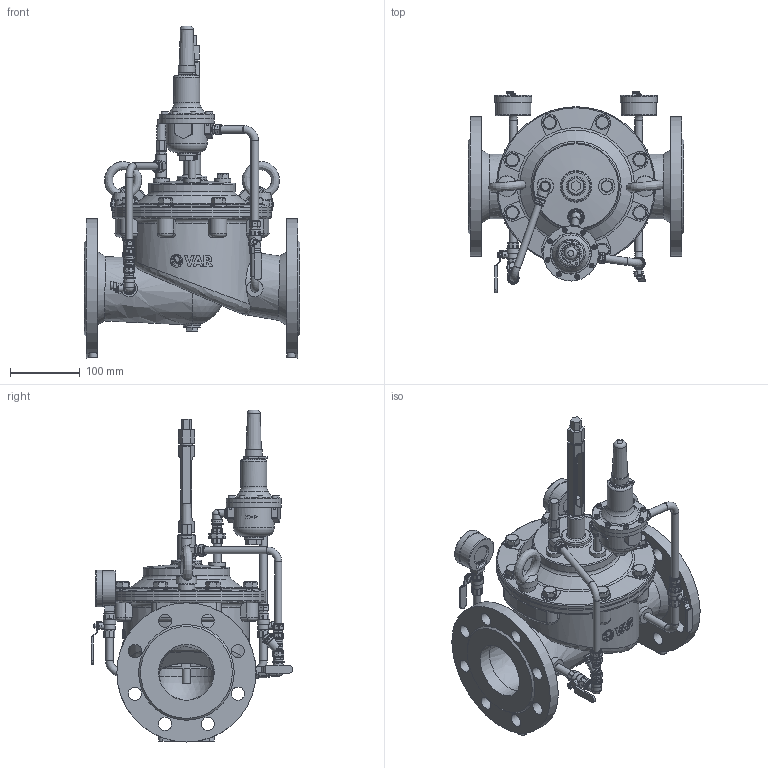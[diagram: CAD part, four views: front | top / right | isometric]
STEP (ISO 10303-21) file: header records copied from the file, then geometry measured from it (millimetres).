
FILE_DESCRIPTION(('STEP AP242'), '1');
FILE_NAME('PICO C200', '', ('UNSPECIFIED'), ('UNSPECIFIED'), 'C3D Converter', 'C3D Toolkit', '');
FILE_SCHEMA(('AP242_MANAGED_MODEL_BASED_3D_ENGINEERING_MIM_LF { 1 0 10303 442 1 1 4 }'));
Length unit declared in the file: millimetre
Products named in the file (26): М; ВР.752218.002
Assembly tree (61 placements, depth 3):
  (unnamed)
    (unnamed)
    (unnamed)
    (unnamed)
    (unnamed)
    (unnamed)
    (unnamed)
    (unnamed)
    М  x2
    (unnamed)
    (unnamed)  x4
    ВР.752218.002  x2
    (unnamed)  x6
    (unnamed)
    (unnamed)  x4
    (unnamed)
    (unnamed)
      (unnamed)
      (unnamed)
      (unnamed)  x8
      (unnamed)
    (unnamed)
    (unnamed)  x8
    (unnamed)  x8
    (unnamed)  x2
    (unnamed)  x2
Bounding box: 310 x 290 x 477 mm (x, y, z)
Volume: 3394895.7 mm3; surface area: 999797 mm2
Topology: 67 solids, 69 shells, 2883 faces, 7255 edges, 4754 vertices
Faces by surface type: plane 1588, cylinder 622, cone 313, extrusion 153, torus 109, bspline 87, sphere 11
Full cylindrical faces by diameter (mm): 0.518 x2, 1.2 x1, 2.5 x2, 3 x8, 4 x25, 4.2 x4, 4.5 x4, 5 x2, 6 x8, 7 x8, 8 x5, 8.7 x1, 9 x16, 9.3 x6, 9.5 x2, 10 x4, 10.2 x4, 10.8 x2, 11 x18, 11.16 x4, 11.179 x6, 11.22 x4, 11.4 x2, 11.577 x2, 12 x50, 12.5 x3, 12.573 x15, 13 x8, 13.157 x2, 13.8 x4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
Entity records: 115373 total; most frequent: CARTESIAN_POINT 65485, ORIENTED_EDGE 7946, DIRECTION 7174, EDGE_CURVE 3973, VERTEX_POINT 2840, AXIS2_PLACEMENT_3D 2629, EDGE_LOOP 2433, FACE_BOUND 1920
